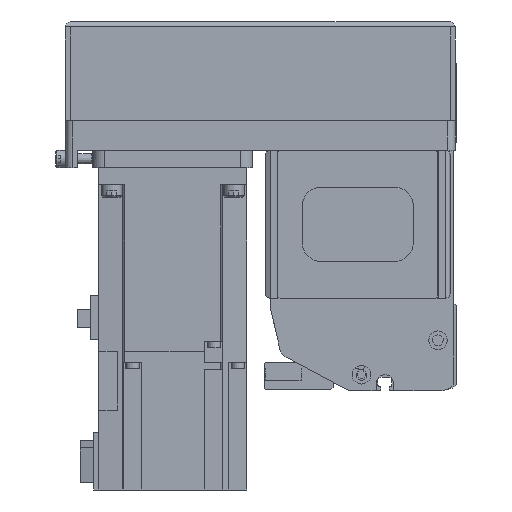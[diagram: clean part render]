
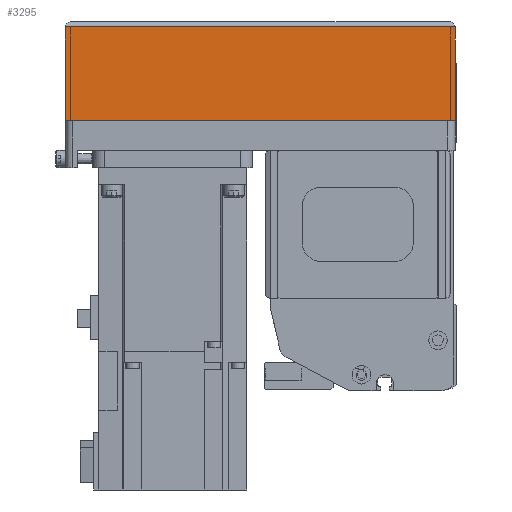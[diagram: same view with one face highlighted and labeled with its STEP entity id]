
A CAD part, left-side view. The second image highlights one B-rep face of the part: STEP entity #3295.
In plain terms, the highlighted planar face has unit normal (-1, 0, 0) as drawn and (0, 1, 0) by its records, which use the part's own axes.
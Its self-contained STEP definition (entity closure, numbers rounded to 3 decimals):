
#3295 = ADVANCED_FACE( '', ( #6885 ), #6886, .T. );
#6885 = FACE_OUTER_BOUND( '', #10502, .T. );
#6886 = PLANE( '', #10503 );
#10502 = EDGE_LOOP( '', ( #19769, #19770, #19771, #19772 ) );
#10503 = AXIS2_PLACEMENT_3D( '', #19773, #19774, #19775 );
#19769 = ORIENTED_EDGE( '', *, *, #23393, .F. );
#19770 = ORIENTED_EDGE( '', *, *, #23104, .F. );
#19771 = ORIENTED_EDGE( '', *, *, #20701, .T. );
#19772 = ORIENTED_EDGE( '', *, *, #23667, .T. );
#19773 = CARTESIAN_POINT( '', ( -158., 39., -50. ) );
#19774 = DIRECTION( '', ( 0., 1., 0. ) );
#19775 = DIRECTION( '', ( 0., 0., 1. ) );
#20701 = EDGE_CURVE( '', #24782, #24779, #24783, .T. );
#23104 = EDGE_CURVE( '', #24782, #28448, #28449, .T. );
#23393 = EDGE_CURVE( '', #28448, #28809, #28810, .T. );
#23667 = EDGE_CURVE( '', #24779, #28809, #29114, .T. );
#24779 = VERTEX_POINT( '', #30850 );
#24782 = VERTEX_POINT( '', #30854 );
#24783 = LINE( '', #30855, #30856 );
#28448 = VERTEX_POINT( '', #36721 );
#28449 = LINE( '', #36722, #36723 );
#28809 = VERTEX_POINT( '', #37209 );
#28810 = LINE( '', #37210, #37211 );
#29114 = LINE( '', #37610, #37611 );
#30850 = CARTESIAN_POINT( '', ( -158., 39., -12.1 ) );
#30854 = CARTESIAN_POINT( '', ( -158., 39., -50. ) );
#30855 = CARTESIAN_POINT( '', ( -158., 39., -50. ) );
#30856 = VECTOR( '', #38511, 1000. );
#36721 = CARTESIAN_POINT( '', ( 0., 39., -50. ) );
#36722 = CARTESIAN_POINT( '', ( -158., 39., -50. ) );
#36723 = VECTOR( '', #41385, 1000. );
#37209 = CARTESIAN_POINT( '', ( 0., 39., -12.1 ) );
#37210 = CARTESIAN_POINT( '', ( 0., 39., -50. ) );
#37211 = VECTOR( '', #41701, 1000. );
#37610 = CARTESIAN_POINT( '', ( -158., 39., -12.1 ) );
#37611 = VECTOR( '', #41896, 1000. );
#38511 = DIRECTION( '', ( 0., 0., 1. ) );
#41385 = DIRECTION( '', ( 1., 0., 0. ) );
#41701 = DIRECTION( '', ( 0., 0., 1. ) );
#41896 = DIRECTION( '', ( 1., 0., 0. ) );
